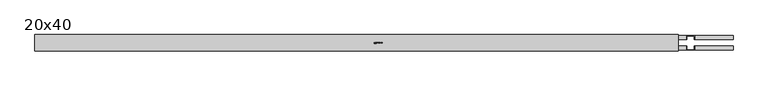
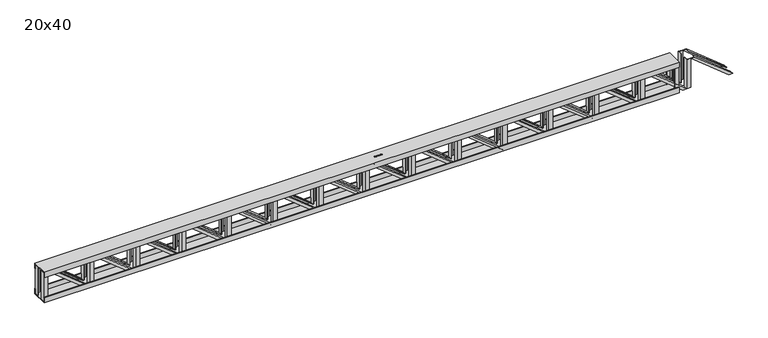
"""IFC4 building model written with IfcOpenShell, lengths in millimetres: beam geometry, Viga Treliçada - Igor Ramos.0001 : 20x40."""

from ifc_helpers import new_model, si_unit, frame, origin, place, context, project, spatial, polyline, outline, extrude, faceted_brep, source, transform, mapped, element, save


def beam_20x40_fac3748b(model_context):
    return source(origin(), model_context, "Body", "SolidModel", [
        extrude(outline(polyline([(3775.0738498, 90.0), (3825.0738498, 90.0), (3825.0738498, 85.0), (3780.0738498, 85.0), (3780.0738498, 40.0), (3775.0738498, 40.0), (3775.0738498, 90.0)])), frame((0.0, 0.0, -190.0), z_axis=(0.0, 0.0, 1.0), x_axis=(1.0, 0.0, 0.0)), (0.0, 0.0, 1.0), 380.0),
        extrude(outline(polyline([(3205.0742706, 90.0), (3255.0742706, 90.0), (3255.0742706, 85.0), (3210.0742706, 85.0), (3210.0742706, 40.0), (3205.0742706, 40.0), (3205.0742706, 90.0)])), frame((0.0, 0.0, -190.0), z_axis=(0.0, 0.0, 1.0), x_axis=(1.0, 0.0, 0.0)), (0.0, 0.0, 1.0), 380.0),
        extrude(outline(polyline([(2635.0746915, 90.0), (2685.0746915, 90.0), (2685.0746915, 85.0), (2640.0746915, 85.0), (2640.0746915, 40.0), (2635.0746915, 40.0), (2635.0746915, 90.0)])), frame((0.0, 0.0, -190.0), z_axis=(0.0, 0.0, 1.0), x_axis=(1.0, 0.0, 0.0)), (0.0, 0.0, 1.0), 380.0),
        extrude(outline(polyline([(2065.0751124, 90.0), (2115.0751124, 90.0), (2115.0751124, 85.0), (2070.0751124, 85.0), (2070.0751124, 40.0), (2065.0751124, 40.0), (2065.0751124, 90.0)])), frame((0.0, 0.0, -190.0), z_axis=(0.0, 0.0, 1.0), x_axis=(1.0, 0.0, 0.0)), (0.0, 0.0, 1.0), 380.0),
        extrude(outline(polyline([(1495.0755333, 90.0), (1545.0755333, 90.0), (1545.0755333, 85.0), (1500.0755333, 85.0), (1500.0755333, 40.0), (1495.0755333, 40.0), (1495.0755333, 90.0)])), frame((0.0, 0.0, -190.0), z_axis=(0.0, 0.0, 1.0), x_axis=(1.0, 0.0, 0.0)), (0.0, 0.0, 1.0), 380.0),
        extrude(outline(polyline([(925.0759542, 90.0), (975.0759542, 90.0), (975.0759542, 85.0), (930.0759542, 85.0), (930.0759542, 40.0), (925.0759542, 40.0), (925.0759542, 90.0)])), frame((0.0, 0.0, -190.0), z_axis=(0.0, 0.0, 1.0), x_axis=(1.0, 0.0, 0.0)), (0.0, 0.0, 1.0), 380.0),
        extrude(outline(polyline([(355.076375, 90.0), (405.076375, 90.0), (405.076375, 85.0), (360.076375, 85.0), (360.076375, 40.0), (355.076375, 40.0), (355.076375, 90.0)])), frame((0.0, 0.0, -190.0), z_axis=(0.0, 0.0, 1.0), x_axis=(1.0, 0.0, 0.0)), (0.0, 0.0, 1.0), 380.0),
        extrude(outline(polyline([(-214.9232041, 90.0), (-164.9232041, 90.0), (-164.9232041, 85.0), (-209.9232041, 85.0), (-209.9232041, 40.0), (-214.9232041, 40.0), (-214.9232041, 90.0)])), frame((0.0, 0.0, -190.0), z_axis=(0.0, 0.0, 1.0), x_axis=(1.0, 0.0, 0.0)), (0.0, 0.0, 1.0), 380.0),
        extrude(outline(polyline([(-784.9227832, 90.0), (-734.9227832, 90.0), (-734.9227832, 85.0), (-779.9227832, 85.0), (-779.9227832, 40.0), (-784.9227832, 40.0), (-784.9227832, 90.0)])), frame((0.0, 0.0, -190.0), z_axis=(0.0, 0.0, 1.0), x_axis=(1.0, 0.0, 0.0)), (0.0, 0.0, 1.0), 380.0),
        extrude(outline(polyline([(-1354.9223623, 90.0), (-1304.9223623, 90.0), (-1304.9223623, 85.0), (-1349.9223623, 85.0), (-1349.9223623, 40.0), (-1354.9223623, 40.0), (-1354.9223623, 90.0)])), frame((0.0, 0.0, -190.0), z_axis=(0.0, 0.0, 1.0), x_axis=(1.0, 0.0, 0.0)), (0.0, 0.0, 1.0), 380.0),
        extrude(outline(polyline([(3775.0738498, -90.0), (3775.0738498, -40.0), (3780.0738498, -40.0), (3780.0738498, -85.0), (3825.0738498, -85.0), (3825.0738498, -90.0), (3775.0738498, -90.0)])), frame((0.0, 0.0, -190.0), z_axis=(0.0, 0.0, 1.0), x_axis=(1.0, 0.0, 0.0)), (0.0, 0.0, 1.0), 380.0),
        extrude(outline(polyline([(3205.0742706, -90.0), (3205.0742706, -40.0), (3210.0742706, -40.0), (3210.0742706, -85.0), (3255.0742706, -85.0), (3255.0742706, -90.0), (3205.0742706, -90.0)])), frame((0.0, 0.0, -190.0), z_axis=(0.0, 0.0, 1.0), x_axis=(1.0, 0.0, 0.0)), (0.0, 0.0, 1.0), 380.0),
        extrude(outline(polyline([(2635.0746915, -90.0), (2635.0746915, -40.0), (2640.0746915, -40.0), (2640.0746915, -85.0), (2685.0746915, -85.0), (2685.0746915, -90.0), (2635.0746915, -90.0)])), frame((0.0, 0.0, -190.0), z_axis=(0.0, 0.0, 1.0), x_axis=(1.0, 0.0, 0.0)), (0.0, 0.0, 1.0), 380.0),
        extrude(outline(polyline([(2065.0751124, -90.0), (2065.0751124, -40.0), (2070.0751124, -40.0), (2070.0751124, -85.0), (2115.0751124, -85.0), (2115.0751124, -90.0), (2065.0751124, -90.0)])), frame((0.0, 0.0, -190.0), z_axis=(0.0, 0.0, 1.0), x_axis=(1.0, 0.0, 0.0)), (0.0, 0.0, 1.0), 380.0),
        extrude(outline(polyline([(1495.0755333, -90.0), (1495.0755333, -40.0), (1500.0755333, -40.0), (1500.0755333, -85.0), (1545.0755333, -85.0), (1545.0755333, -90.0), (1495.0755333, -90.0)])), frame((0.0, 0.0, -190.0), z_axis=(0.0, 0.0, 1.0), x_axis=(1.0, 0.0, 0.0)), (0.0, 0.0, 1.0), 380.0),
        extrude(outline(polyline([(925.0759542, -90.0), (925.0759542, -40.0), (930.0759542, -40.0), (930.0759542, -85.0), (975.0759542, -85.0), (975.0759542, -90.0), (925.0759542, -90.0)])), frame((0.0, 0.0, -190.0), z_axis=(0.0, 0.0, 1.0), x_axis=(1.0, 0.0, 0.0)), (0.0, 0.0, 1.0), 380.0),
        extrude(outline(polyline([(355.076375, -90.0), (355.076375, -40.0), (360.076375, -40.0), (360.076375, -85.0), (405.076375, -85.0), (405.076375, -90.0), (355.076375, -90.0)])), frame((0.0, 0.0, -190.0), z_axis=(0.0, 0.0, 1.0), x_axis=(1.0, 0.0, 0.0)), (0.0, 0.0, 1.0), 380.0),
        extrude(outline(polyline([(-214.9232041, -90.0), (-214.9232041, -40.0), (-209.9232041, -40.0), (-209.9232041, -85.0), (-164.9232041, -85.0), (-164.9232041, -90.0), (-214.9232041, -90.0)])), frame((0.0, 0.0, -190.0), z_axis=(0.0, 0.0, 1.0), x_axis=(1.0, 0.0, 0.0)), (0.0, 0.0, 1.0), 380.0),
        extrude(outline(polyline([(-784.9227832, -90.0), (-784.9227832, -40.0), (-779.9227832, -40.0), (-779.9227832, -85.0), (-734.9227832, -85.0), (-734.9227832, -90.0), (-784.9227832, -90.0)])), frame((0.0, 0.0, -190.0), z_axis=(0.0, 0.0, 1.0), x_axis=(1.0, 0.0, 0.0)), (0.0, 0.0, 1.0), 380.0),
        extrude(outline(polyline([(-1354.9223623, -90.0), (-1354.9223623, -40.0), (-1349.9223623, -40.0), (-1349.9223623, -85.0), (-1304.9223623, -85.0), (-1304.9223623, -90.0), (-1354.9223623, -90.0)])), frame((0.0, 0.0, -190.0), z_axis=(0.0, 0.0, 1.0), x_axis=(1.0, 0.0, 0.0)), (0.0, 0.0, 1.0), 380.0),
        faceted_brep([(4295.0734289, -90.0, -190.0), (4295.0734289, -85.0, -190.0), (4340.0734289, -85.0, -190.0), (4340.0734289, -40.0, -190.0), (4345.0734289, -40.0, -190.0), (4345.0734289, -90.0, -190.0), (3825.0738498, -90.0, 190.0), (3875.0738498, -90.0, 190.0), (3875.0738498, -40.0, 190.0), (3870.0738498, -40.0, 190.0), (3870.0738498, -85.0, 190.0), (3825.0738498, -85.0, 190.0)], [[[0, 1, 2, 3, 4, 5]], [[6, 7, 8, 9, 10, 11]], [[6, 11, 1, 0]], [[11, 10, 2, 1]], [[10, 9, 3, 2]], [[9, 8, 4, 3]], [[8, 7, 5, 4]], [[7, 6, 0, 5]]]),
        faceted_brep([(3725.0738498, -90.0, -190.0), (3725.0738498, -85.0, -190.0), (3770.0738498, -85.0, -190.0), (3770.0738498, -40.0, -190.0), (3775.0738498, -40.0, -190.0), (3775.0738498, -90.0, -190.0), (3255.0742706, -90.0, 190.0), (3305.0742706, -90.0, 190.0), (3305.0742706, -40.0, 190.0), (3300.0742706, -40.0, 190.0), (3300.0742706, -85.0, 190.0), (3255.0742706, -85.0, 190.0)], [[[0, 1, 2, 3, 4, 5]], [[6, 7, 8, 9, 10, 11]], [[6, 11, 1, 0]], [[11, 10, 2, 1]], [[10, 9, 3, 2]], [[9, 8, 4, 3]], [[8, 7, 5, 4]], [[7, 6, 0, 5]]]),
        faceted_brep([(3155.0742706, -90.0, -190.0), (3155.0742706, -85.0, -190.0), (3200.0742706, -85.0, -190.0), (3200.0742706, -40.0, -190.0), (3205.0742706, -40.0, -190.0), (3205.0742706, -90.0, -190.0), (2685.0746915, -90.0, 190.0), (2735.0746915, -90.0, 190.0), (2735.0746915, -40.0, 190.0), (2730.0746915, -40.0, 190.0), (2730.0746915, -85.0, 190.0), (2685.0746915, -85.0, 190.0)], [[[0, 1, 2, 3, 4, 5]], [[6, 7, 8, 9, 10, 11]], [[6, 11, 1, 0]], [[11, 10, 2, 1]], [[10, 9, 3, 2]], [[9, 8, 4, 3]], [[8, 7, 5, 4]], [[7, 6, 0, 5]]]),
        faceted_brep([(2585.0746915, -90.0, -190.0), (2585.0746915, -85.0, -190.0), (2630.0746915, -85.0, -190.0), (2630.0746915, -40.0, -190.0), (2635.0746915, -40.0, -190.0), (2635.0746915, -90.0, -190.0), (2115.0751124, -90.0, 190.0), (2165.0751124, -90.0, 190.0), (2165.0751124, -40.0, 190.0), (2160.0751124, -40.0, 190.0), (2160.0751124, -85.0, 190.0), (2115.0751124, -85.0, 190.0)], [[[0, 1, 2, 3, 4, 5]], [[6, 7, 8, 9, 10, 11]], [[6, 11, 1, 0]], [[11, 10, 2, 1]], [[10, 9, 3, 2]], [[9, 8, 4, 3]], [[8, 7, 5, 4]], [[7, 6, 0, 5]]]),
        faceted_brep([(2015.0751124, -90.0, -190.0), (2015.0751124, -85.0, -190.0), (2060.0751124, -85.0, -190.0), (2060.0751124, -40.0, -190.0), (2065.0751124, -40.0, -190.0), (2065.0751124, -90.0, -190.0), (1545.0755333, -90.0, 190.0), (1595.0755333, -90.0, 190.0), (1595.0755333, -40.0, 190.0), (1590.0755333, -40.0, 190.0), (1590.0755333, -85.0, 190.0), (1545.0755333, -85.0, 190.0)], [[[0, 1, 2, 3, 4, 5]], [[6, 7, 8, 9, 10, 11]], [[6, 11, 1, 0]], [[11, 10, 2, 1]], [[10, 9, 3, 2]], [[9, 8, 4, 3]], [[8, 7, 5, 4]], [[7, 6, 0, 5]]]),
        faceted_brep([(1445.0755333, -90.0, -190.0), (1445.0755333, -85.0, -190.0), (1490.0755333, -85.0, -190.0), (1490.0755333, -40.0, -190.0), (1495.0755333, -40.0, -190.0), (1495.0755333, -90.0, -190.0), (975.0759542, -90.0, 190.0), (1025.0759542, -90.0, 190.0), (1025.0759542, -40.0, 190.0), (1020.0759542, -40.0, 190.0), (1020.0759542, -85.0, 190.0), (975.0759542, -85.0, 190.0)], [[[0, 1, 2, 3, 4, 5]], [[6, 7, 8, 9, 10, 11]], [[6, 11, 1, 0]], [[11, 10, 2, 1]], [[10, 9, 3, 2]], [[9, 8, 4, 3]], [[8, 7, 5, 4]], [[7, 6, 0, 5]]]),
        faceted_brep([(875.0759542, -90.0, -190.0), (875.0759542, -85.0, -190.0), (920.0759542, -85.0, -190.0), (920.0759542, -40.0, -190.0), (925.0759542, -40.0, -190.0), (925.0759542, -90.0, -190.0), (405.076375, -90.0, 190.0), (455.076375, -90.0, 190.0), (455.076375, -40.0, 190.0), (450.076375, -40.0, 190.0), (450.076375, -85.0, 190.0), (405.076375, -85.0, 190.0)], [[[0, 1, 2, 3, 4, 5]], [[6, 7, 8, 9, 10, 11]], [[6, 11, 1, 0]], [[11, 10, 2, 1]], [[10, 9, 3, 2]], [[9, 8, 4, 3]], [[8, 7, 5, 4]], [[7, 6, 0, 5]]]),
        faceted_brep([(305.076375, -90.0, -190.0), (305.076375, -85.0, -190.0), (350.076375, -85.0, -190.0), (350.076375, -40.0, -190.0), (355.076375, -40.0, -190.0), (355.076375, -90.0, -190.0), (-164.9232041, -90.0, 190.0), (-114.9232041, -90.0, 190.0), (-114.9232041, -40.0, 190.0), (-119.9232041, -40.0, 190.0), (-119.9232041, -85.0, 190.0), (-164.9232041, -85.0, 190.0)], [[[0, 1, 2, 3, 4, 5]], [[6, 7, 8, 9, 10, 11]], [[6, 11, 1, 0]], [[11, 10, 2, 1]], [[10, 9, 3, 2]], [[9, 8, 4, 3]], [[8, 7, 5, 4]], [[7, 6, 0, 5]]]),
        faceted_brep([(-264.9232041, -90.0, -190.0), (-264.9232041, -85.0, -190.0), (-219.9232041, -85.0, -190.0), (-219.9232041, -40.0, -190.0), (-214.9232041, -40.0, -190.0), (-214.9232041, -90.0, -190.0), (-734.9227832, -90.0, 190.0), (-684.9227832, -90.0, 190.0), (-684.9227832, -40.0, 190.0), (-689.9227832, -40.0, 190.0), (-689.9227832, -85.0, 190.0), (-734.9227832, -85.0, 190.0)], [[[0, 1, 2, 3, 4, 5]], [[6, 7, 8, 9, 10, 11]], [[6, 11, 1, 0]], [[11, 10, 2, 1]], [[10, 9, 3, 2]], [[9, 8, 4, 3]], [[8, 7, 5, 4]], [[7, 6, 0, 5]]]),
        faceted_brep([(-834.9227832, -90.0, -190.0), (-834.9227832, -85.0, -190.0), (-789.9227832, -85.0, -190.0), (-789.9227832, -40.0, -190.0), (-784.9227832, -40.0, -190.0), (-784.9227832, -90.0, -190.0), (-1304.9223623, -90.0, 190.0), (-1254.9223623, -90.0, 190.0), (-1254.9223623, -40.0, 190.0), (-1259.9223623, -40.0, 190.0), (-1259.9223623, -85.0, 190.0), (-1304.9223623, -85.0, 190.0)], [[[0, 1, 2, 3, 4, 5]], [[6, 7, 8, 9, 10, 11]], [[6, 11, 1, 0]], [[11, 10, 2, 1]], [[10, 9, 3, 2]], [[9, 8, 4, 3]], [[8, 7, 5, 4]], [[7, 6, 0, 5]]]),
        faceted_brep([(4295.0734289, 90.0, -190.0), (4345.0734289, 90.0, -190.0), (4345.0734289, 40.0, -190.0), (4340.0734289, 40.0, -190.0), (4340.0734289, 85.0, -190.0), (4295.0734289, 85.0, -190.0), (3825.0738498, 90.0, 190.0), (3825.0738498, 85.0, 190.0), (3870.0738498, 85.0, 190.0), (3870.0738498, 40.0, 190.0), (3875.0738498, 40.0, 190.0), (3875.0738498, 90.0, 190.0)], [[[0, 1, 2, 3, 4, 5]], [[6, 7, 8, 9, 10, 11]], [[6, 0, 5, 7]], [[7, 5, 4, 8]], [[8, 4, 3, 9]], [[9, 3, 2, 10]], [[10, 2, 1, 11]], [[11, 1, 0, 6]]]),
        faceted_brep([(3725.0738498, 90.0, -190.0), (3775.0738498, 90.0, -190.0), (3775.0738498, 40.0, -190.0), (3770.0738498, 40.0, -190.0), (3770.0738498, 85.0, -190.0), (3725.0738498, 85.0, -190.0), (3255.0742706, 90.0, 190.0), (3255.0742706, 85.0, 190.0), (3300.0742706, 85.0, 190.0), (3300.0742706, 40.0, 190.0), (3305.0742706, 40.0, 190.0), (3305.0742706, 90.0, 190.0)], [[[0, 1, 2, 3, 4, 5]], [[6, 7, 8, 9, 10, 11]], [[6, 0, 5, 7]], [[7, 5, 4, 8]], [[8, 4, 3, 9]], [[9, 3, 2, 10]], [[10, 2, 1, 11]], [[11, 1, 0, 6]]]),
        faceted_brep([(3155.0742706, 90.0, -190.0), (3205.0742706, 90.0, -190.0), (3205.0742706, 40.0, -190.0), (3200.0742706, 40.0, -190.0), (3200.0742706, 85.0, -190.0), (3155.0742706, 85.0, -190.0), (2685.0746915, 90.0, 190.0), (2685.0746915, 85.0, 190.0), (2730.0746915, 85.0, 190.0), (2730.0746915, 40.0, 190.0), (2735.0746915, 40.0, 190.0), (2735.0746915, 90.0, 190.0)], [[[0, 1, 2, 3, 4, 5]], [[6, 7, 8, 9, 10, 11]], [[6, 0, 5, 7]], [[7, 5, 4, 8]], [[8, 4, 3, 9]], [[9, 3, 2, 10]], [[10, 2, 1, 11]], [[11, 1, 0, 6]]]),
        faceted_brep([(2585.0746915, 90.0, -190.0), (2635.0746915, 90.0, -190.0), (2635.0746915, 40.0, -190.0), (2630.0746915, 40.0, -190.0), (2630.0746915, 85.0, -190.0), (2585.0746915, 85.0, -190.0), (2115.0751124, 90.0, 190.0), (2115.0751124, 85.0, 190.0), (2160.0751124, 85.0, 190.0), (2160.0751124, 40.0, 190.0), (2165.0751124, 40.0, 190.0), (2165.0751124, 90.0, 190.0)], [[[0, 1, 2, 3, 4, 5]], [[6, 7, 8, 9, 10, 11]], [[6, 0, 5, 7]], [[7, 5, 4, 8]], [[8, 4, 3, 9]], [[9, 3, 2, 10]], [[10, 2, 1, 11]], [[11, 1, 0, 6]]]),
        faceted_brep([(2015.0751124, 90.0, -190.0), (2065.0751124, 90.0, -190.0), (2065.0751124, 40.0, -190.0), (2060.0751124, 40.0, -190.0), (2060.0751124, 85.0, -190.0), (2015.0751124, 85.0, -190.0), (1545.0755333, 90.0, 190.0), (1545.0755333, 85.0, 190.0), (1590.0755333, 85.0, 190.0), (1590.0755333, 40.0, 190.0), (1595.0755333, 40.0, 190.0), (1595.0755333, 90.0, 190.0)], [[[0, 1, 2, 3, 4, 5]], [[6, 7, 8, 9, 10, 11]], [[6, 0, 5, 7]], [[7, 5, 4, 8]], [[8, 4, 3, 9]], [[9, 3, 2, 10]], [[10, 2, 1, 11]], [[11, 1, 0, 6]]]),
        faceted_brep([(1445.0755333, 90.0, -190.0), (1495.0755333, 90.0, -190.0), (1495.0755333, 40.0, -190.0), (1490.0755333, 40.0, -190.0), (1490.0755333, 85.0, -190.0), (1445.0755333, 85.0, -190.0), (975.0759542, 90.0, 190.0), (975.0759542, 85.0, 190.0), (1020.0759542, 85.0, 190.0), (1020.0759542, 40.0, 190.0), (1025.0759542, 40.0, 190.0), (1025.0759542, 90.0, 190.0)], [[[0, 1, 2, 3, 4, 5]], [[6, 7, 8, 9, 10, 11]], [[6, 0, 5, 7]], [[7, 5, 4, 8]], [[8, 4, 3, 9]], [[9, 3, 2, 10]], [[10, 2, 1, 11]], [[11, 1, 0, 6]]]),
        faceted_brep([(875.0759542, 90.0, -190.0), (925.0759542, 90.0, -190.0), (925.0759542, 40.0, -190.0), (920.0759542, 40.0, -190.0), (920.0759542, 85.0, -190.0), (875.0759542, 85.0, -190.0), (405.076375, 90.0, 190.0), (405.076375, 85.0, 190.0), (450.076375, 85.0, 190.0), (450.076375, 40.0, 190.0), (455.076375, 40.0, 190.0), (455.076375, 90.0, 190.0)], [[[0, 1, 2, 3, 4, 5]], [[6, 7, 8, 9, 10, 11]], [[6, 0, 5, 7]], [[7, 5, 4, 8]], [[8, 4, 3, 9]], [[9, 3, 2, 10]], [[10, 2, 1, 11]], [[11, 1, 0, 6]]]),
        faceted_brep([(305.076375, 90.0, -190.0), (355.076375, 90.0, -190.0), (355.076375, 40.0, -190.0), (350.076375, 40.0, -190.0), (350.076375, 85.0, -190.0), (305.076375, 85.0, -190.0), (-164.9232041, 90.0, 190.0), (-164.9232041, 85.0, 190.0), (-119.9232041, 85.0, 190.0), (-119.9232041, 40.0, 190.0), (-114.9232041, 40.0, 190.0), (-114.9232041, 90.0, 190.0)], [[[0, 1, 2, 3, 4, 5]], [[6, 7, 8, 9, 10, 11]], [[6, 0, 5, 7]], [[7, 5, 4, 8]], [[8, 4, 3, 9]], [[9, 3, 2, 10]], [[10, 2, 1, 11]], [[11, 1, 0, 6]]]),
        faceted_brep([(-264.9232041, 90.0, -190.0), (-214.9232041, 90.0, -190.0), (-214.9232041, 40.0, -190.0), (-219.9232041, 40.0, -190.0), (-219.9232041, 85.0, -190.0), (-264.9232041, 85.0, -190.0), (-734.9227832, 90.0, 190.0), (-734.9227832, 85.0, 190.0), (-689.9227832, 85.0, 190.0), (-689.9227832, 40.0, 190.0), (-684.9227832, 40.0, 190.0), (-684.9227832, 90.0, 190.0)], [[[0, 1, 2, 3, 4, 5]], [[6, 7, 8, 9, 10, 11]], [[6, 0, 5, 7]], [[7, 5, 4, 8]], [[8, 4, 3, 9]], [[9, 3, 2, 10]], [[10, 2, 1, 11]], [[11, 1, 0, 6]]]),
        faceted_brep([(-834.9227832, 90.0, -190.0), (-784.9227832, 90.0, -190.0), (-784.9227832, 40.0, -190.0), (-789.9227832, 40.0, -190.0), (-789.9227832, 85.0, -190.0), (-834.9227832, 85.0, -190.0), (-1304.9223623, 90.0, 190.0), (-1304.9223623, 85.0, 190.0), (-1259.9223623, 85.0, 190.0), (-1259.9223623, 40.0, 190.0), (-1254.9223623, 40.0, 190.0), (-1254.9223623, 90.0, 190.0)], [[[0, 1, 2, 3, 4, 5]], [[6, 7, 8, 9, 10, 11]], [[6, 0, 5, 7]], [[7, 5, 4, 8]], [[8, 4, 3, 9]], [[9, 3, 2, 10]], [[10, 2, 1, 11]], [[11, 1, 0, 6]]]),
        extrude(outline(polyline([(-1924.9219415, 90.0), (-1874.9219415, 90.0), (-1874.9219415, 85.0), (-1919.9219415, 85.0), (-1919.9219415, 40.0), (-1924.9219415, 40.0), (-1924.9219415, 90.0)])), frame((0.0, 0.0, -190.0), z_axis=(0.0, 0.0, 1.0), x_axis=(1.0, 0.0, 0.0)), (0.0, 0.0, 1.0), 380.0),
        extrude(outline(polyline([(-2494.9215206, 90.0), (-2444.9215206, 90.0), (-2444.9215206, 85.0), (-2489.9215206, 85.0), (-2489.9215206, 40.0), (-2494.9215206, 40.0), (-2494.9215206, 90.0)])), frame((0.0, 0.0, -190.0), z_axis=(0.0, 0.0, 1.0), x_axis=(1.0, 0.0, 0.0)), (0.0, 0.0, 1.0), 380.0),
        extrude(outline(polyline([(-1924.9219415, -90.0), (-1924.9219415, -40.0), (-1919.9219415, -40.0), (-1919.9219415, -85.0), (-1874.9219415, -85.0), (-1874.9219415, -90.0), (-1924.9219415, -90.0)])), frame((0.0, 0.0, -190.0), z_axis=(0.0, 0.0, 1.0), x_axis=(1.0, 0.0, 0.0)), (0.0, 0.0, 1.0), 380.0),
        extrude(outline(polyline([(-2494.9215206, -90.0), (-2494.9215206, -40.0), (-2489.9215206, -40.0), (-2489.9215206, -85.0), (-2444.9215206, -85.0), (-2444.9215206, -90.0), (-2494.9215206, -90.0)])), frame((0.0, 0.0, -190.0), z_axis=(0.0, 0.0, 1.0), x_axis=(1.0, 0.0, 0.0)), (0.0, 0.0, 1.0), 380.0),
        faceted_brep([(-1404.9223623, 90.0, -190.0), (-1354.9223623, 90.0, -190.0), (-1354.9223623, 40.0, -190.0), (-1359.9223623, 40.0, -190.0), (-1359.9223623, 85.0, -190.0), (-1404.9223623, 85.0, -190.0), (-1874.9219415, 90.0, 190.0), (-1874.9219415, 85.0, 190.0), (-1829.9219415, 85.0, 190.0), (-1829.9219415, 40.0, 190.0), (-1824.9219415, 40.0, 190.0), (-1824.9219415, 90.0, 190.0)], [[[0, 1, 2, 3, 4, 5]], [[6, 7, 8, 9, 10, 11]], [[6, 0, 5, 7]], [[7, 5, 4, 8]], [[8, 4, 3, 9]], [[9, 3, 2, 10]], [[10, 2, 1, 11]], [[11, 1, 0, 6]]]),
        faceted_brep([(-1974.9219415, 90.0, -190.0), (-1924.9219415, 90.0, -190.0), (-1924.9219415, 40.0, -190.0), (-1929.9219415, 40.0, -190.0), (-1929.9219415, 85.0, -190.0), (-1974.9219415, 85.0, -190.0), (-2444.9215206, 90.0, 190.0), (-2444.9215206, 85.0, 190.0), (-2399.9215206, 85.0, 190.0), (-2399.9215206, 40.0, 190.0), (-2394.9215206, 40.0, 190.0), (-2394.9215206, 90.0, 190.0)], [[[0, 1, 2, 3, 4, 5]], [[6, 7, 8, 9, 10, 11]], [[6, 0, 5, 7]], [[7, 5, 4, 8]], [[8, 4, 3, 9]], [[9, 3, 2, 10]], [[10, 2, 1, 11]], [[11, 1, 0, 6]]]),
        faceted_brep([(-2544.9215206, 90.0, -190.0), (-2494.9215206, 90.0, -190.0), (-2494.9215206, 40.0, -190.0), (-2499.9215206, 40.0, -190.0), (-2499.9215206, 85.0, -190.0), (-2544.9215206, 85.0, -190.0), (-3014.9210997, 90.0, 190.0), (-3014.9210997, 85.0, 190.0), (-2969.9210997, 85.0, 190.0), (-2969.9210997, 40.0, 190.0), (-2964.9210997, 40.0, 190.0), (-2964.9210997, 90.0, 190.0)], [[[0, 1, 2, 3, 4, 5]], [[6, 7, 8, 9, 10, 11]], [[6, 0, 5, 7]], [[7, 5, 4, 8]], [[8, 4, 3, 9]], [[9, 3, 2, 10]], [[10, 2, 1, 11]], [[11, 1, 0, 6]]]),
        faceted_brep([(-1404.9223623, -90.0, -190.0), (-1404.9223623, -85.0, -190.0), (-1359.9223623, -85.0, -190.0), (-1359.9223623, -40.0, -190.0), (-1354.9223623, -40.0, -190.0), (-1354.9223623, -90.0, -190.0), (-1874.9219415, -90.0, 190.0), (-1824.9219415, -90.0, 190.0), (-1824.9219415, -40.0, 190.0), (-1829.9219415, -40.0, 190.0), (-1829.9219415, -85.0, 190.0), (-1874.9219415, -85.0, 190.0)], [[[0, 1, 2, 3, 4, 5]], [[6, 7, 8, 9, 10, 11]], [[6, 11, 1, 0]], [[11, 10, 2, 1]], [[10, 9, 3, 2]], [[9, 8, 4, 3]], [[8, 7, 5, 4]], [[7, 6, 0, 5]]]),
        faceted_brep([(-1974.9219415, -90.0, -190.0), (-1974.9219415, -85.0, -190.0), (-1929.9219415, -85.0, -190.0), (-1929.9219415, -40.0, -190.0), (-1924.9219415, -40.0, -190.0), (-1924.9219415, -90.0, -190.0), (-2444.9215206, -90.0, 190.0), (-2394.9215206, -90.0, 190.0), (-2394.9215206, -40.0, 190.0), (-2399.9215206, -40.0, 190.0), (-2399.9215206, -85.0, 190.0), (-2444.9215206, -85.0, 190.0)], [[[0, 1, 2, 3, 4, 5]], [[6, 7, 8, 9, 10, 11]], [[6, 11, 1, 0]], [[11, 10, 2, 1]], [[10, 9, 3, 2]], [[9, 8, 4, 3]], [[8, 7, 5, 4]], [[7, 6, 0, 5]]]),
        faceted_brep([(-2544.9215206, -90.0, -190.0), (-2544.9215206, -85.0, -190.0), (-2499.9215206, -85.0, -190.0), (-2499.9215206, -40.0, -190.0), (-2494.9215206, -40.0, -190.0), (-2494.9215206, -90.0, -190.0), (-3014.9210997, -90.0, 190.0), (-2964.9210997, -90.0, 190.0), (-2964.9210997, -40.0, 190.0), (-2969.9210997, -40.0, 190.0), (-2969.9210997, -85.0, 190.0), (-3014.9210997, -85.0, 190.0)], [[[0, 1, 2, 3, 4, 5]], [[6, 7, 8, 9, 10, 11]], [[6, 11, 1, 0]], [[11, 10, 2, 1]], [[10, 9, 3, 2]], [[9, 8, 4, 3]], [[8, 7, 5, 4]], [[7, 6, 0, 5]]]),
        extrude(outline(polyline([(-3064.9210997, 90.0), (-3014.9210997, 90.0), (-3014.9210997, 85.0), (-3059.9210997, 85.0), (-3059.9210997, 40.0), (-3064.9210997, 40.0), (-3064.9210997, 90.0)])), frame((0.0, 0.0, -190.0), z_axis=(0.0, 0.0, 1.0), x_axis=(1.0, 0.0, 0.0)), (0.0, 0.0, 1.0), 380.0),
        extrude(outline(polyline([(-3064.9210997, -90.0), (-3064.9210997, -40.0), (-3059.9210997, -40.0), (-3059.9210997, -85.0), (-3014.9210997, -85.0), (-3014.9210997, -90.0), (-3064.9210997, -90.0)])), frame((0.0, 0.0, -190.0), z_axis=(0.0, 0.0, 1.0), x_axis=(1.0, 0.0, 0.0)), (0.0, 0.0, 1.0), 380.0),
        extrude(outline(polyline([(3676.5023626, 90.0), (3676.5023626, 40.0), (3671.5023626, 40.0), (3671.5023626, 85.0), (3626.5023626, 85.0), (3626.5023626, 90.0), (3676.5023626, 90.0)])), frame((0.0, 0.0, -190.0), z_axis=(0.0, 0.0, 1.0), x_axis=(1.0, 0.0, 0.0)), (0.0, 0.0, 1.0), 380.0),
        extrude(outline(polyline([(3676.5023626, -90.0), (3626.5023626, -90.0), (3626.5023626, -85.0), (3671.5023626, -85.0), (3671.5023626, -40.0), (3676.5023626, -40.0), (3676.5023626, -90.0)])), frame((0.0, 0.0, -190.0), z_axis=(0.0, 0.0, 1.0), x_axis=(1.0, 0.0, 0.0)), (0.0, 0.0, 1.0), 380.0),
        extrude(outline(polyline([(-3634.9206788, 90.0), (-3584.9206788, 90.0), (-3584.9206788, 85.0), (-3629.9206788, 85.0), (-3629.9206788, 40.0), (-3634.9206788, 40.0), (-3634.9206788, 90.0)])), frame((0.0, 0.0, -190.0), z_axis=(0.0, 0.0, 1.0), x_axis=(1.0, 0.0, 0.0)), (0.0, 0.0, 1.0), 380.0),
        extrude(outline(polyline([(-3634.9206788, -90.0), (-3634.9206788, -40.0), (-3629.9206788, -40.0), (-3629.9206788, -85.0), (-3584.9206788, -85.0), (-3584.9206788, -90.0), (-3634.9206788, -90.0)])), frame((0.0, 0.0, -190.0), z_axis=(0.0, 0.0, 1.0), x_axis=(1.0, 0.0, 0.0)), (0.0, 0.0, 1.0), 380.0),
        faceted_brep([(-3114.9210997, -90.0, -190.0), (-3114.9210997, -85.0, -190.0), (-3069.9210997, -85.0, -190.0), (-3069.9210997, -40.0, -190.0), (-3064.9210997, -40.0, -190.0), (-3064.9210997, -90.0, -190.0), (-3584.9206788, -90.0, 190.0), (-3534.9206788, -90.0, 190.0), (-3534.9206788, -40.0, 190.0), (-3539.9206788, -40.0, 190.0), (-3539.9206788, -85.0, 190.0), (-3584.9206788, -85.0, 190.0)], [[[0, 1, 2, 3, 4, 5]], [[6, 7, 8, 9, 10, 11]], [[6, 11, 1, 0]], [[11, 10, 2, 1]], [[10, 9, 3, 2]], [[9, 8, 4, 3]], [[8, 7, 5, 4]], [[7, 6, 0, 5]]]),
        faceted_brep([(-3114.9210997, 90.0, -190.0), (-3064.9210997, 90.0, -190.0), (-3064.9210997, 40.0, -190.0), (-3069.9210997, 40.0, -190.0), (-3069.9210997, 85.0, -190.0), (-3114.9210997, 85.0, -190.0), (-3584.9206788, 90.0, 190.0), (-3584.9206788, 85.0, 190.0), (-3539.9206788, 85.0, 190.0), (-3539.9206788, 40.0, 190.0), (-3534.9206788, 40.0, 190.0), (-3534.9206788, 90.0, 190.0)], [[[0, 1, 2, 3, 4, 5]], [[6, 7, 8, 9, 10, 11]], [[6, 0, 5, 7]], [[7, 5, 4, 8]], [[8, 4, 3, 9]], [[9, 3, 2, 10]], [[10, 2, 1, 11]], [[11, 1, 0, 6]]]),
        faceted_brep([(-3684.9206788, 90.0, -190.0), (-3634.9206788, 90.0, -190.0), (-3634.9206788, 40.0, -190.0), (-3639.9206788, 40.0, -190.0), (-3639.9206788, 85.0, -190.0), (-3684.9206788, 85.0, -190.0), (-4154.9202579, 90.0, 190.0), (-4154.9202579, 85.0, 190.0), (-4109.9202579, 85.0, 190.0), (-4109.9202579, 40.0, 190.0), (-4104.9202579, 40.0, 190.0), (-4104.9202579, 90.0, 190.0)], [[[0, 1, 2, 3, 4, 5]], [[6, 7, 8, 9, 10, 11]], [[6, 0, 5, 7]], [[7, 5, 4, 8]], [[8, 4, 3, 9]], [[9, 3, 2, 10]], [[10, 2, 1, 11]], [[11, 1, 0, 6]]]),
        extrude(outline(polyline([(-4204.9202579, 90.0), (-4154.9202579, 90.0), (-4154.9202579, 85.0), (-4199.9202579, 85.0), (-4199.9202579, 40.0), (-4204.9202579, 40.0), (-4204.9202579, 90.0)])), frame((0.0, 0.0, -190.0), z_axis=(0.0, 0.0, 1.0), x_axis=(1.0, 0.0, 0.0)), (0.0, 0.0, 1.0), 380.0),
        extrude(outline(polyline([(-4204.9202579, -90.0), (-4204.9202579, -40.0), (-4199.9202579, -40.0), (-4199.9202579, -85.0), (-4154.9202579, -85.0), (-4154.9202579, -90.0), (-4204.9202579, -90.0)])), frame((0.0, 0.0, -190.0), z_axis=(0.0, 0.0, 1.0), x_axis=(1.0, 0.0, 0.0)), (0.0, 0.0, 1.0), 380.0),
        faceted_brep([(-3684.9206788, -90.0, -190.0), (-3684.9206788, -85.0, -190.0), (-3639.9206788, -85.0, -190.0), (-3639.9206788, -40.0, -190.0), (-3634.9206788, -40.0, -190.0), (-3634.9206788, -90.0, -190.0), (-4154.9202579, -90.0, 190.0), (-4104.9202579, -90.0, 190.0), (-4104.9202579, -40.0, 190.0), (-4109.9202579, -40.0, 190.0), (-4109.9202579, -85.0, 190.0), (-4154.9202579, -85.0, 190.0)], [[[0, 1, 2, 3, 4, 5]], [[6, 7, 8, 9, 10, 11]], [[6, 11, 1, 0]], [[11, 10, 2, 1]], [[10, 9, 3, 2]], [[9, 8, 4, 3]], [[8, 7, 5, 4]], [[7, 6, 0, 5]]]),
        extrude(outline(polyline([(-100.0, 200.0), (100.0, 200.0), (100.0, 130.0), (90.0, 130.0), (90.0, 190.0), (-90.0, 190.0), (-90.0, 130.0), (-100.0, 130.0), (-100.0, 200.0)])), frame((-4204.9202579, 0.0, 0.0), z_axis=(1.0, 0.0, 0.0), x_axis=(0.0, 1.0, 0.0)), (0.0, 0.0, 1.0), 7881.4226206),
        extrude(outline(polyline([(100.0, -130.0), (100.0, -200.0), (-100.0, -200.0), (-100.0, -130.0), (-90.0, -130.0), (-90.0, -190.0), (90.0, -190.0), (90.0, -130.0), (100.0, -130.0)])), frame((-4204.9202579, 0.0, 0.0), z_axis=(1.0, 0.0, 0.0), x_axis=(0.0, 1.0, 0.0)), (0.0, 0.0, 1.0), 7881.4226206),
        extrude(outline(polyline([(-40.6337926, -4.4248778), (-42.2708675, -4.6848478), (-43.3708347, -5.0), (-44.5480571, -4.6394756), (-45.476346, -3.5309246), (-45.8331915, -1.8877183), (-45.2801422, 0.3195737), (-43.9042636, 1.9799477), (-42.3064294, 2.5342233), (-41.1807105, 2.219071), (-40.2561005, 1.258899), (-40.0255611, 2.3772603), (-38.7698572, 2.3772603), (-39.809737, -2.2286223), (-40.0255611, -3.290575), (-38.5859162, -3.3469836), (-37.3437013, -1.9551634), (-36.8863014, -0.1513153), (-37.4749126, 1.8744882), (-39.2321622, 3.3815781), (-41.8134676, 3.9468901), (-44.7589761, 3.2295202), (-46.8264729, 1.1730599), (-47.5597843, -1.6964197), (-46.8338305, -4.461666), (-44.7332243, -6.1735436), (-41.6883877, -6.7265928), (-38.6938283, -6.1772224), (-36.8863014, -4.843037), (-35.6305975, -4.843037), (-36.8188564, -6.3366379), (-38.8238132, -7.539612), (-41.6246215, -7.9822967), (-44.4070356, -7.5911155), (-46.5787657, -6.4163457), (-47.9301189, -4.6100451), (-48.5015622, -1.8141419), (-47.8197543, 1.3717162), (-45.462857, 4.215444), (-41.757059, 5.202594), (-38.7257114, 4.5109758), (-36.6042585, 2.4483841), (-35.9445235, -0.1145271), (-37.3130445, -3.6241213), (-40.6337926, -4.4248778)]), holes=[polyline([(-44.5774876, -1.9073387), (-44.1372555, -3.2611444), (-43.1280326, -3.7442961), (-42.3272761, -3.5309246), (-41.5240671, -2.8981675), (-40.8974414, -1.8337623), (-40.653413, -0.5388177), (-41.110813, 0.8014991), (-42.2254954, 1.2785194), (-43.0421934, 1.0712792), (-43.7840888, 0.4066391), (-44.3604373, -0.7055908), (-44.5774876, -1.9073387)])]), frame((0.0, 0.0, 200.0), z_axis=(0.0, 0.0, 1.0), x_axis=(1.0, 0.0, 0.0)), (0.0, 0.0, 1.0), 1.0),
        extrude(outline(polyline([(-34.2179306, 3.7899271), (-34.2179306, 5.045631), (-32.9622268, 5.045631), (-32.9622268, 3.7899271), (-34.2179306, 3.7899271)])), frame((0.0, 0.0, 200.0), z_axis=(0.0, 0.0, 1.0), x_axis=(1.0, 0.0, 0.0)), (0.0, 0.0, 1.0), 1.0),
        extrude(outline(polyline([(-34.2179306, -5.0), (-34.2179306, 2.3772603), (-32.9622268, 2.3772603), (-32.9622268, -5.0), (-34.2179306, -5.0)])), frame((0.0, 0.0, 200.0), z_axis=(0.0, 0.0, 1.0), x_axis=(1.0, 0.0, 0.0)), (0.0, 0.0, 1.0), 1.0),
        extrude(outline(polyline([(-31.3925969, -5.6278519), (-30.136893, -5.7848149), (-28.5108546, -6.7265928), (-27.2257202, -6.4102143), (-26.6125835, -5.5223924), (-26.5267444, -4.0582221), (-28.4887817, -5.0), (-30.7488034, -3.9037117), (-31.5495599, -1.2745817), (-31.1902618, 0.6715141), (-30.1503821, 2.048619), (-28.5500954, 2.5342233), (-26.5267444, 1.4354824), (-26.5267444, 2.3772603), (-25.2710405, 2.3772603), (-25.2710405, -3.9920033), (-25.6143971, -6.431061), (-26.7021015, -7.5653638), (-28.5353801, -7.9822967), (-30.6237236, -7.3949118), (-31.3925969, -5.6278519)]), holes=[polyline([(-30.293856, -1.1887425), (-29.7579746, -3.1323857), (-28.4127528, -3.7442961), (-27.0699835, -3.1360646), (-26.5267444, -1.2255307), (-27.085925, 0.6469886), (-28.4323731, 1.2785194), (-29.7506169, 0.6567988), (-30.293856, -1.1887425)])]), frame((0.0, 0.0, 200.0), z_axis=(0.0, 0.0, 1.0), x_axis=(1.0, 0.0, 0.0)), (0.0, 0.0, 1.0), 1.0),
        extrude(outline(polyline([(-23.7014107, -1.3113699), (-22.6149325, 1.7175252), (-20.4027355, 2.5342233), (-18.0298966, 1.5397156), (-17.1089653, -1.2083629), (-17.5160881, -3.4426329), (-18.7018944, -4.7069207), (-20.4027355, -5.156963), (-22.7902896, -4.1661341), (-23.7014107, -1.3113699)]), holes=[polyline([(-22.4457068, -1.3089173), (-21.8644532, -3.2550131), (-20.4027355, -3.9012591), (-18.9459228, -3.2513342), (-18.3646692, -1.2696766), (-18.9496016, 0.6322733), (-20.4027355, 1.2785194), (-21.8644532, 0.6347259), (-22.4457068, -1.3089173)])]), frame((0.0, 0.0, 200.0), z_axis=(0.0, 0.0, 1.0), x_axis=(1.0, 0.0, 0.0)), (0.0, 0.0, 1.0), 1.0),
        extrude(outline(polyline([(-15.6962985, -5.0), (-15.6962985, 2.3772603), (-14.5975576, 2.3772603), (-14.5975576, 1.285877), (-13.8176477, 2.2914211), (-13.0328328, 2.5342233), (-11.7722238, 2.1467209), (-12.1916093, 1.021002), (-13.0745261, 1.2785194), (-14.2370332, 0.3440991), (-14.4405946, -1.1225238), (-14.4405946, -5.0), (-15.6962985, -5.0)])), frame((0.0, 0.0, 200.0), z_axis=(0.0, 0.0, 1.0), x_axis=(1.0, 0.0, 0.0)), (0.0, 0.0, 1.0), 1.0),
        extrude(outline(polyline([(-10.9874089, -5.0), (-10.9874089, 2.3772603), (-9.888668, 2.3772603), (-9.888668, 1.285877), (-9.1087582, 2.2914211), (-8.3239433, 2.5342233), (-7.0633343, 2.1467209), (-7.4827198, 1.021002), (-8.3656366, 1.2785194), (-9.5281437, 0.3440991), (-9.731705, -1.1225238), (-9.731705, -5.0), (-10.9874089, -5.0)])), frame((0.0, 0.0, 200.0), z_axis=(0.0, 0.0, 1.0), x_axis=(1.0, 0.0, 0.0)), (0.0, 0.0, 1.0), 1.0),
        extrude(outline(polyline([(-1.5696298, -4.0582221), (-2.7873193, -4.9092558), (-4.1325411, -5.156963), (-5.9560095, -4.5609942), (-6.5924454, -3.0379627), (-6.3520958, -2.0446813), (-5.720565, -1.3236326), (-4.8413271, -0.9116048), (-3.7548489, -0.7227587), (-1.5769875, -0.2911105), (-1.9154389, 0.9155425), (-3.3035803, 1.2785194), (-4.5739995, 1.0369435), (-5.1797785, 0.1797785), (-6.4354824, 0.3367415), (-5.8922433, 1.5630148), (-4.7984075, 2.281611), (-3.1417122, 2.5342233), (-1.6199071, 2.3110415), (-0.7602895, 1.7506346), (-0.3752396, 0.8983747), (-0.313926, -0.2003662), (-0.313926, -1.7626384), (-0.2501598, -3.9441787), (0.0, -5.0), (-1.2557039, -5.0), (-1.5696298, -4.0582221)]), holes=[polyline([(-1.5733087, -1.724624), (-3.5954334, -1.9318642), (-4.6757802, -2.1354255), (-3.8652135, -3.9012591), (-2.5947943, -3.6008221), (-1.7756438, -2.8736421), (-1.5733087, -1.724624)])]), frame((0.0, 0.0, 200.0), z_axis=(0.0, 0.0, 1.0), x_axis=(1.0, 0.0, 0.0)), (0.0, 0.0, 1.0), 1.0),
        extrude(outline(polyline([(1.4126669, -5.0), (1.4126669, 2.3772603), (2.6683707, 2.3772603), (2.6683707, 1.1632497), (3.5316672, 2.1577574), (4.760393, 2.5342233), (6.0185494, 2.1503997), (6.7101676, 1.074958), (8.9272697, 2.5342233), (10.5692497, 1.927218), (11.1443719, 0.0571512), (11.1443719, -5.0), (9.888668, -5.0), (9.888668, -0.4824091), (9.7721721, 0.5660546), (7.3981069, 0.7757473), (6.9063713, -0.8355758), (6.9063713, -5.0), (5.6506674, -5.0), (5.6506674, -0.3426139), (5.3600407, 0.8738492), (4.4072263, 1.2785194), (3.4777111, 1.0087393), (2.8596694, 0.2190192), (2.6683707, -1.2794868), (2.6683707, -5.0), (1.4126669, -5.0)])), frame((0.0, 0.0, 200.0), z_axis=(0.0, 0.0, 1.0), x_axis=(1.0, 0.0, 0.0)), (0.0, 0.0, 1.0), 1.0),
        extrude(outline(polyline([(12.7140018, -1.3113699), (13.8004799, 1.7175252), (16.012677, 2.5342233), (18.3855158, 1.5397156), (19.3064471, -1.2083629), (18.8993244, -3.4426329), (17.7135181, -4.7069207), (16.012677, -5.156963), (13.6251228, -4.1661341), (12.7140018, -1.3113699)]), holes=[polyline([(13.9697056, -1.3089173), (14.5509592, -3.2550131), (16.012677, -3.9012591), (17.4694897, -3.2513342), (18.0507432, -1.2696766), (17.4658109, 0.6322733), (16.012677, 1.2785194), (14.5509592, 0.6347259), (13.9697056, -1.3089173)])]), frame((0.0, 0.0, 200.0), z_axis=(0.0, 0.0, 1.0), x_axis=(1.0, 0.0, 0.0)), (0.0, 0.0, 1.0), 1.0),
        extrude(outline(polyline([(20.248225, -2.8025182), (21.5039289, -2.6455552), (22.0851824, -3.577523), (23.4169153, -3.9012591), (24.6971446, -3.604501), (25.1140775, -2.9079777), (23.4022, -1.9858202), (21.5112865, -1.3714573), (20.6860046, -0.6540874), (20.405188, 0.3588144), (20.6308223, 1.2944609), (21.2464115, 2.0093783), (22.0447154, 2.3809391), (23.1250622, 2.5342233), (24.6529988, 2.2877423), (25.6242072, 1.6206496), (26.0558554, 0.4937045), (24.8001516, 0.3367415), (24.3280363, 1.0295859), (23.2231641, 1.2785194), (22.0214162, 1.0406224), (23.3605067, -0.423548), (25.2035955, -1.0146117), (26.0595343, -1.684157), (26.3697814, -2.7755402), (26.0055782, -3.9772881), (24.954662, -4.8491684), (23.3997474, -5.156963), (21.2096233, -4.5634467), (20.248225, -2.8025182)])), frame((0.0, 0.0, 200.0), z_axis=(0.0, 0.0, 1.0), x_axis=(1.0, 0.0, 0.0)), (0.0, 0.0, 1.0), 1.0),
        extrude(outline(polyline([(29.0381522, -5.0), (27.7824483, -5.0), (27.7824483, 5.045631), (29.0381522, 5.045631), (29.0381522, 1.3202127), (31.0099996, 2.5342233), (32.2681561, 2.2607643), (33.2442696, 1.4918909), (33.8439173, 0.2962745), (34.0609677, -1.2010053), (33.1621093, -4.1244409), (31.002642, -5.156963), (29.0381522, -3.8252302), (29.0381522, -5.0)]), holes=[polyline([(29.0381522, -1.2598664), (29.3815087, -3.0158898), (30.89473, -3.9012591), (32.2387255, -3.2488817), (32.8052638, -1.3040122), (32.2620247, 0.6482149), (30.948686, 1.2785194), (29.6046904, 0.626142), (29.0381522, -1.2598664)])]), frame((0.0, 0.0, 200.0), z_axis=(0.0, 0.0, 1.0), x_axis=(1.0, 0.0, 0.0)), (0.0, 0.0, 1.0), 1.0),
        extrude(outline(polyline([(35.4736345, 3.7899271), (35.4736345, 5.045631), (36.7293384, 5.045631), (36.7293384, 3.7899271), (35.4736345, 3.7899271)])), frame((0.0, 0.0, 200.0), z_axis=(0.0, 0.0, 1.0), x_axis=(1.0, 0.0, 0.0)), (0.0, 0.0, 1.0), 1.0),
        extrude(outline(polyline([(35.4736345, -5.0), (35.4736345, 2.3772603), (36.7293384, 2.3772603), (36.7293384, -5.0), (35.4736345, -5.0)])), frame((0.0, 0.0, 200.0), z_axis=(0.0, 0.0, 1.0), x_axis=(1.0, 0.0, 0.0)), (0.0, 0.0, 1.0), 1.0),
        extrude(outline(polyline([(38.6128942, -5.0), (38.6128942, 2.3772603), (39.8685981, 2.3772603), (39.8685981, 1.1632497), (40.7318945, 2.1577574), (41.9606204, 2.5342233), (43.2187768, 2.1503997), (43.9103949, 1.074958), (46.1274971, 2.5342233), (47.7694771, 1.927218), (48.3445993, 0.0571512), (48.3445993, -5.0), (47.0888954, -5.0), (47.0888954, -0.4824091), (46.9723994, 0.5660546), (44.5983343, 0.7757473), (44.1065987, -0.8355758), (44.1065987, -5.0), (42.8508948, -5.0), (42.8508948, -0.3426139), (42.560268, 0.8738492), (41.6074537, 1.2785194), (40.6779385, 1.0087393), (40.0598967, 0.2190192), (39.8685981, -1.2794868), (39.8685981, -5.0), (38.6128942, -5.0)])), frame((0.0, 0.0, 200.0), z_axis=(0.0, 0.0, 1.0), x_axis=(1.0, 0.0, 0.0)), (0.0, 0.0, 1.0), 1.0),
    ])


if __name__ == "__main__":
    model = new_model("IFC4")
    model_context = context("Model", 3, world=origin())
    ifc_project = project(units=[si_unit("LENGTHUNIT", "METRE", prefix="MILLI")], contexts=[model_context])
    site = spatial("IfcSite", under=ifc_project)
    building = spatial("IfcBuilding", under=site)
    placement = place(None, origin())
    beam_20x40_shape = beam_20x40_fac3748b(model_context)
    element("IfcBeam", 1, ObjectType="Viga Treliçada - Igor Ramos.0001 : 20x40", at=placement, inside=building, context=model_context, shape_type="MappedRepresentation", body=[
        mapped(beam_20x40_shape, transform((0.0, 0.0, 0.0), x_axis=(1.0, 0.0, 0.0), y_axis=(0.0, 1.0, 0.0), z_axis=(0.0, 0.0, 1.0))),
    ])
    save(model, "model.ifc")
